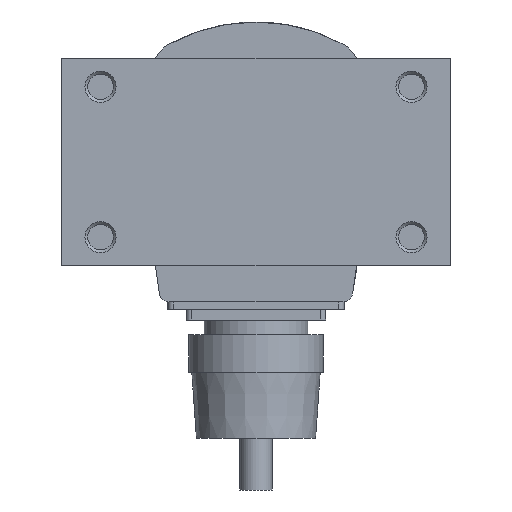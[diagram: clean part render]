
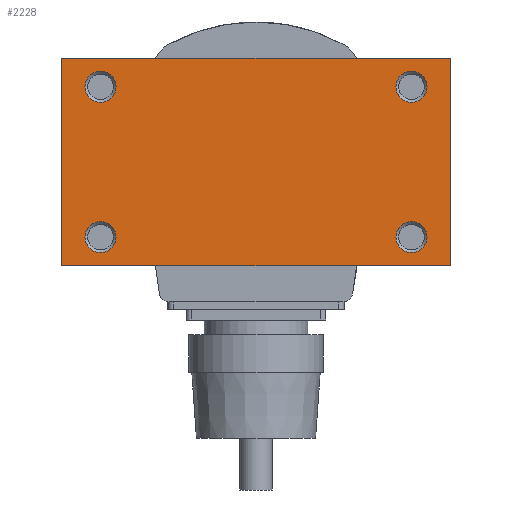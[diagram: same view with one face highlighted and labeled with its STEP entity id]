
A CAD part, front view. The second image highlights one B-rep face of the part: STEP entity #2228.
In plain terms, the highlighted planar face has unit normal (0, -1, 0).
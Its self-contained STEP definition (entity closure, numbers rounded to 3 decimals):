
#82=LINE('',#3735,#276);
#86=LINE('',#3745,#280);
#95=LINE('',#3775,#289);
#96=LINE('',#3777,#290);
#276=VECTOR('',#3037,1000.);
#280=VECTOR('',#3045,1000.);
#289=VECTOR('',#3068,1000.);
#290=VECTOR('',#3071,1000.);
#463=PLANE('',#2774);
#603=ORIENTED_EDGE('',*,*,#1205,.F.);
#604=ORIENTED_EDGE('',*,*,#1206,.F.);
#605=ORIENTED_EDGE('',*,*,#1207,.F.);
#606=ORIENTED_EDGE('',*,*,#1208,.F.);
#607=ORIENTED_EDGE('',*,*,#1204,.T.);
#608=ORIENTED_EDGE('',*,*,#1188,.F.);
#609=ORIENTED_EDGE('',*,*,#1203,.F.);
#610=ORIENTED_EDGE('',*,*,#1183,.T.);
#1183=EDGE_CURVE('',#1489,#1488,#82,.T.);
#1188=EDGE_CURVE('',#1492,#1491,#86,.T.);
#1203=EDGE_CURVE('',#1489,#1492,#95,.T.);
#1204=EDGE_CURVE('',#1488,#1491,#96,.T.);
#1205=EDGE_CURVE('',#1507,#1507,#1701,.T.);
#1206=EDGE_CURVE('',#1508,#1508,#1702,.T.);
#1207=EDGE_CURVE('',#1509,#1509,#1703,.T.);
#1208=EDGE_CURVE('',#1510,#1510,#1704,.T.);
#1488=VERTEX_POINT('',#3734);
#1489=VERTEX_POINT('',#3736);
#1491=VERTEX_POINT('',#3742);
#1492=VERTEX_POINT('',#3744);
#1507=VERTEX_POINT('',#3780);
#1508=VERTEX_POINT('',#3782);
#1509=VERTEX_POINT('',#3784);
#1510=VERTEX_POINT('',#3786);
#1701=CIRCLE('',#2775,3.);
#1702=CIRCLE('',#2776,3.);
#1703=CIRCLE('',#2777,3.);
#1704=CIRCLE('',#2778,3.);
#1790=EDGE_LOOP('',(#603));
#1791=EDGE_LOOP('',(#604));
#1792=EDGE_LOOP('',(#605));
#1793=EDGE_LOOP('',(#606));
#1794=EDGE_LOOP('',(#607,#608,#609,#610));
#1994=FACE_BOUND('',#1790,.T.);
#1995=FACE_BOUND('',#1791,.T.);
#1996=FACE_BOUND('',#1792,.T.);
#1997=FACE_BOUND('',#1793,.T.);
#1998=FACE_BOUND('',#1794,.T.);
#2228=ADVANCED_FACE('',(#1994,#1995,#1996,#1997,#1998),#463,.F.);
#2774=AXIS2_PLACEMENT_3D('',#3778,#3072,#3073);
#2775=AXIS2_PLACEMENT_3D('',#3779,#3074,#3075);
#2776=AXIS2_PLACEMENT_3D('',#3781,#3076,#3077);
#2777=AXIS2_PLACEMENT_3D('',#3783,#3078,#3079);
#2778=AXIS2_PLACEMENT_3D('',#3785,#3080,#3081);
#3037=DIRECTION('',(0.,0.,-1.));
#3045=DIRECTION('',(0.,0.,-1.));
#3068=DIRECTION('',(1.,0.,0.));
#3071=DIRECTION('',(1.,0.,0.));
#3072=DIRECTION('',(0.,1.,0.));
#3073=DIRECTION('',(0.,0.,1.));
#3074=DIRECTION('',(0.,-1.,0.));
#3075=DIRECTION('',(0.,0.,-1.));
#3076=DIRECTION('',(0.,-1.,0.));
#3077=DIRECTION('',(0.,0.,-1.));
#3078=DIRECTION('',(0.,-1.,0.));
#3079=DIRECTION('',(0.,0.,-1.));
#3080=DIRECTION('',(0.,-1.,0.));
#3081=DIRECTION('',(0.,0.,-1.));
#3734=CARTESIAN_POINT('',(-37.5,-15.,-19.99));
#3735=CARTESIAN_POINT('',(-37.5,-15.,19.99));
#3736=CARTESIAN_POINT('',(-37.5,-15.,19.99));
#3742=CARTESIAN_POINT('',(37.5,-15.,-19.99));
#3744=CARTESIAN_POINT('',(37.5,-15.,19.99));
#3745=CARTESIAN_POINT('',(37.5,-15.,19.99));
#3775=CARTESIAN_POINT('',(-37.5,-15.,19.99));
#3777=CARTESIAN_POINT('',(-37.5,-15.,-19.99));
#3778=CARTESIAN_POINT('',(19.5,-15.,0.));
#3779=CARTESIAN_POINT('',(-30.,-15.,-14.5));
#3780=CARTESIAN_POINT('',(-30.,-15.,-17.5));
#3781=CARTESIAN_POINT('',(30.,-15.,14.5));
#3782=CARTESIAN_POINT('',(30.,-15.,11.5));
#3783=CARTESIAN_POINT('',(30.,-15.,-14.5));
#3784=CARTESIAN_POINT('',(30.,-15.,-17.5));
#3785=CARTESIAN_POINT('',(-30.,-15.,14.5));
#3786=CARTESIAN_POINT('',(-30.,-15.,11.5));
